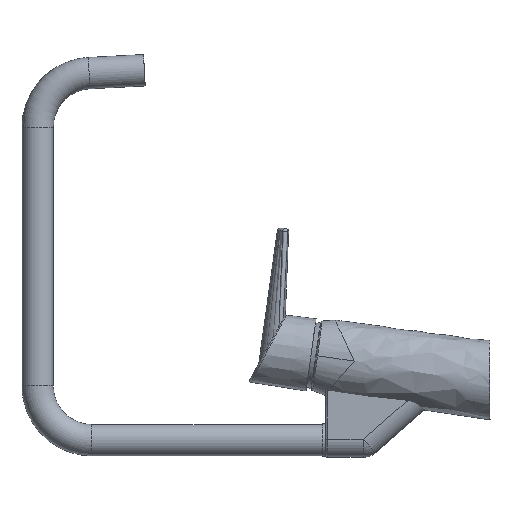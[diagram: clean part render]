
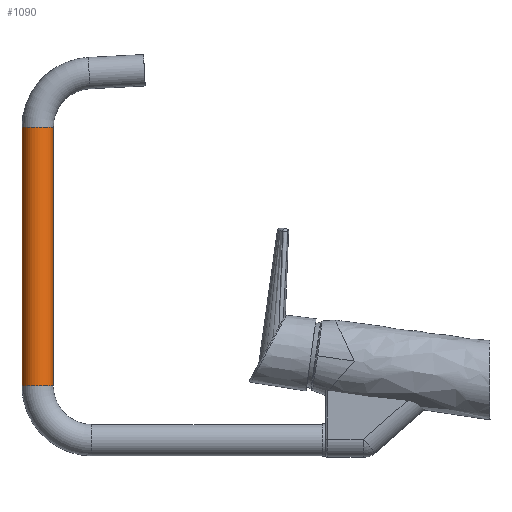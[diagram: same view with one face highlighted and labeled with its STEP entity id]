
A CAD part, left-side view. The second image highlights one B-rep face of the part: STEP entity #1090.
In plain terms, the highlighted cylindrical face has radius 11 mm (diameter 22 mm), a full revolution.
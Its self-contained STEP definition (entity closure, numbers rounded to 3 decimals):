
#245 = DIRECTION ( 'NONE',  ( 0., 0., -1. ) ) ;
#323 = EDGE_CURVE ( 'NONE', #3138, #3138, #4030, .T. ) ;
#399 = CARTESIAN_POINT ( 'NONE',  ( 0., 305.983, -5.561 ) ) ;
#481 = AXIS2_PLACEMENT_3D ( 'NONE', #1152, #1098, #1391 ) ;
#502 = CARTESIAN_POINT ( 'NONE',  ( 0., 316.983, -5.561 ) ) ;
#632 = AXIS2_PLACEMENT_3D ( 'NONE', #2484, #245, #2867 ) ;
#890 = VERTEX_POINT ( 'NONE', #2658 ) ;
#983 = CIRCLE ( 'NONE', #632, 11. ) ;
#1090 = ADVANCED_FACE ( 'NONE', ( #2372, #2378 ), #2485, .T. ) ;
#1098 = DIRECTION ( 'NONE',  ( 0., 0., 1. ) ) ;
#1152 = CARTESIAN_POINT ( 'NONE',  ( 0., 316.983, -5.561 ) ) ;
#1185 = AXIS2_PLACEMENT_3D ( 'NONE', #502, #2752, #3453 ) ;
#1391 = DIRECTION ( 'NONE',  ( 0., 1., 0. ) ) ;
#1974 = EDGE_LOOP ( 'NONE', ( #3152 ) ) ;
#2372 = FACE_OUTER_BOUND ( 'NONE', #3793, .T. ) ;
#2378 = FACE_OUTER_BOUND ( 'NONE', #1974, .T. ) ;
#2484 = CARTESIAN_POINT ( 'NONE',  ( 0., 316.983, 175.753 ) ) ;
#2485 = CYLINDRICAL_SURFACE ( 'NONE', #481, 11. ) ;
#2658 = CARTESIAN_POINT ( 'NONE',  ( 0., 305.983, 175.753 ) ) ;
#2752 = DIRECTION ( 'NONE',  ( 0., 0., -1. ) ) ;
#2867 = DIRECTION ( 'NONE',  ( 0., -1., 0. ) ) ;
#3096 = ORIENTED_EDGE ( 'NONE', *, *, #323, .F. ) ;
#3138 = VERTEX_POINT ( 'NONE', #399 ) ;
#3152 = ORIENTED_EDGE ( 'NONE', *, *, #4077, .T. ) ;
#3453 = DIRECTION ( 'NONE',  ( 0., -1., 0. ) ) ;
#3793 = EDGE_LOOP ( 'NONE', ( #3096 ) ) ;
#4030 = CIRCLE ( 'NONE', #1185, 11. ) ;
#4077 = EDGE_CURVE ( 'NONE', #890, #890, #983, .T. ) ;
